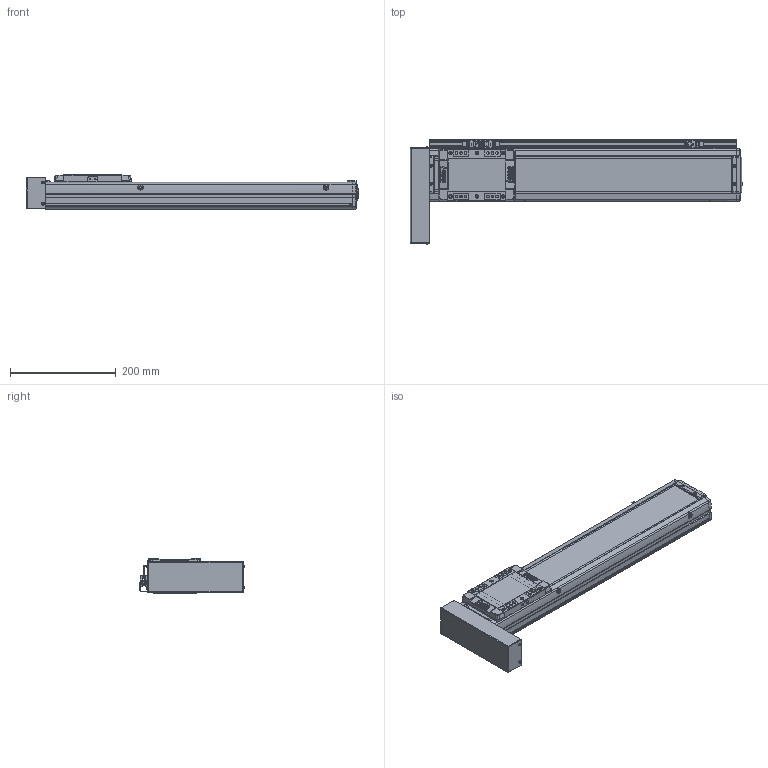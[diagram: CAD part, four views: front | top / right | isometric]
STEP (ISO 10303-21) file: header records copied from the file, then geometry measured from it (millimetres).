
FILE_DESCRIPTION(('STEP AP214'),'1');
FILE_NAME('Z:/Web/3D/SAN100/SAN100 양산용 (STEP)/SAN100ㅁㅁ-400PR+3SL.stp','2013-04-25T08:16:01',(' '),(' '),'Spatial InterOp 3D',' ',' ');
FILE_SCHEMA(('automotive_design'));
Length unit declared in the file: millimetre
Products named in the file (49): SGD-SAN100; M3.0 x 6.0; SRL-16x17-380L; EE-SX674; SBK-SX674-352; 스크루 : Round - M3.0 x 6.0; SUS COVER; SFX-SAN100; RRCV-SAN100; 스크루 : Round - M4.0 x 10.0; FRBL-SAN100; SLBL-SAN100; SLCV-SAN100; 스크루 : Countersunk - M3.0 x 6.0; BASE; 스크루 : Round - M5.0 x 6.0; BTCV-SAN65; BHCS M3 X 6L
Bounding box: 626.5 x 197.06 x 66 mm (x, y, z)
Volume: 2097086.8 mm3; surface area: 539774.1 mm2
Topology: 49 solids, 50 shells, 2369 faces, 6172 edges, 3997 vertices
Faces by surface type: plane 1282, cylinder 799, cone 190, sphere 64, torus 18, bspline 16
Entity records: 93380 total; most frequent: CARTESIAN_POINT 13897, DIRECTION 12979, ORIENTED_EDGE 12172, EDGE_CURVE 6086, AXIS2_PLACEMENT_3D 4580, VERTEX_POINT 3997, LINE 3819, VECTOR 3819
